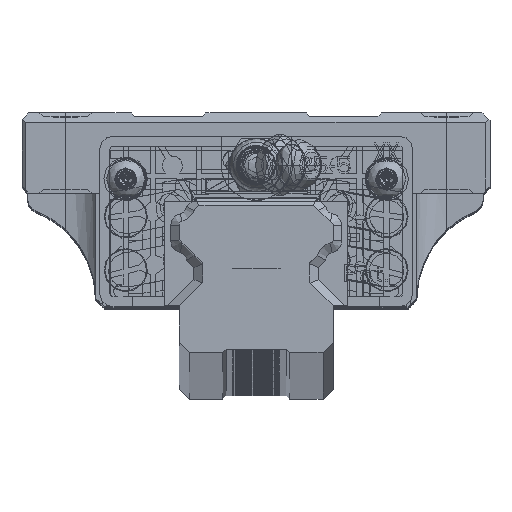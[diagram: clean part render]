
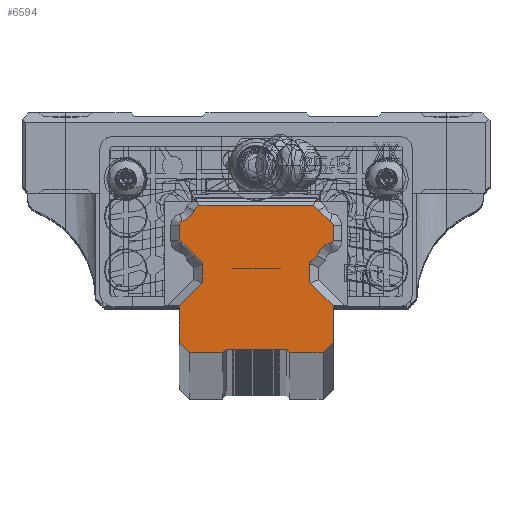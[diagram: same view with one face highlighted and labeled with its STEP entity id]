
A CAD part, top view. The second image highlights one B-rep face of the part: STEP entity #6594.
In plain terms, the highlighted planar face has unit normal (0, 0, 1).
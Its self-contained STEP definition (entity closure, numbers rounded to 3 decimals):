
#33=DIRECTION('',(0.707,0.707,0.));
#34=VECTOR('',#33,0.707);
#35=CARTESIAN_POINT('',(-5.,-18.,500.));
#36=LINE('',#35,#34);
#41=DIRECTION('',(1.,0.,0.));
#42=VECTOR('',#41,9.);
#43=CARTESIAN_POINT('',(-4.5,-17.5,500.));
#44=LINE('',#43,#42);
#719=DIRECTION('',(0.707,-0.707,0.));
#720=VECTOR('',#719,0.707);
#721=CARTESIAN_POINT('',(4.5,-17.5,500.));
#722=LINE('',#721,#720);
#771=DIRECTION('',(-0.707,0.707,0.));
#772=VECTOR('',#771,0.913);
#773=CARTESIAN_POINT('',(9.193,3.354,500.));
#774=LINE('',#773,#772);
#783=DIRECTION('',(-1.,0.,0.));
#784=VECTOR('',#783,17.094);
#785=CARTESIAN_POINT('',(8.547,4.,500.));
#786=LINE('',#785,#784);
#1457=DIRECTION('',(-0.707,-0.707,0.));
#1458=VECTOR('',#1457,0.913);
#1459=CARTESIAN_POINT('',(-8.547,4.,500.));
#1460=LINE('',#1459,#1458);
#1601=CARTESIAN_POINT('',(-9.171,-3.429,500.));
#1602=CARTESIAN_POINT('',(-9.256,-3.118,500.));
#1603=CARTESIAN_POINT('',(-9.523,-2.572,500.));
#1604=CARTESIAN_POINT('',(-10.214,-1.927,500.));
#1605=CARTESIAN_POINT('',(-10.776,-1.695,500.));
#1606=CARTESIAN_POINT('',(-11.1,-1.63,500.));
#1608=CARTESIAN_POINT('',(-11.1,-1.63,500.));
#1609=CARTESIAN_POINT('',(-11.178,-1.615,500.));
#1610=CARTESIAN_POINT('',(-11.321,-1.548,500.));
#1611=CARTESIAN_POINT('',(-11.463,-1.367,500.));
#1612=CARTESIAN_POINT('',(-11.5,-1.222,500.));
#1613=CARTESIAN_POINT('',(-11.5,-1.141,500.));
#1615=DIRECTION('',(0.,1.,0.));
#1616=VECTOR('',#1615,2.283);
#1617=CARTESIAN_POINT('',(-11.5,-1.141,500.));
#1618=LINE('',#1617,#1616);
#1619=CARTESIAN_POINT('',(-11.,1.141,500.));
#1620=DIRECTION('',(0.,0.,-1.));
#1621=DIRECTION('',(-1.,0.,0.));
#1622=AXIS2_PLACEMENT_3D('',#1619,#1620,#1621);
#1624=CARTESIAN_POINT('',(-11.584,4.084,500.));
#1625=DIRECTION('',(0.,0.,1.));
#1626=DIRECTION('',(0.195,-0.981,0.));
#1627=AXIS2_PLACEMENT_3D('',#1624,#1625,#1626);
#1629=CARTESIAN_POINT('',(9.193,3.354,500.));
#1630=CARTESIAN_POINT('',(9.286,3.05,500.));
#1631=CARTESIAN_POINT('',(9.566,2.52,500.));
#1632=CARTESIAN_POINT('',(10.247,1.909,500.));
#1633=CARTESIAN_POINT('',(10.788,1.697,500.));
#1634=CARTESIAN_POINT('',(11.079,1.637,500.));
#1636=CARTESIAN_POINT('',(11.079,1.637,500.));
#1637=CARTESIAN_POINT('',(11.168,1.622,500.));
#1638=CARTESIAN_POINT('',(11.304,1.559,500.));
#1639=CARTESIAN_POINT('',(11.463,1.374,500.));
#1640=CARTESIAN_POINT('',(11.5,1.225,500.));
#1641=CARTESIAN_POINT('',(11.5,1.141,500.));
#1643=DIRECTION('',(0.,-1.,0.));
#1644=VECTOR('',#1643,2.283);
#1645=CARTESIAN_POINT('',(11.5,1.141,500.));
#1646=LINE('',#1645,#1644);
#1647=CARTESIAN_POINT('',(11.,-1.141,500.));
#1648=DIRECTION('',(0.,0.,-1.));
#1649=DIRECTION('',(1.,0.,0.));
#1650=AXIS2_PLACEMENT_3D('',#1647,#1648,#1649);
#1652=CARTESIAN_POINT('',(11.584,-4.084,500.));
#1653=DIRECTION('',(0.,0.,1.));
#1654=DIRECTION('',(-0.195,0.981,0.));
#1655=AXIS2_PLACEMENT_3D('',#1652,#1653,#1654);
#1657=DIRECTION('',(-0.707,-0.707,0.));
#1658=VECTOR('',#1657,1.657);
#1659=CARTESIAN_POINT('',(9.171,-3.429,500.));
#1660=LINE('',#1659,#1658);
#1661=DIRECTION('',(0.,-1.,0.));
#1662=VECTOR('',#1661,2.9);
#1663=CARTESIAN_POINT('',(8.,-4.6,500.));
#1664=LINE('',#1663,#1662);
#1665=DIRECTION('',(0.707,-0.707,0.));
#1666=VECTOR('',#1665,4.95);
#1667=CARTESIAN_POINT('',(8.,-7.5,500.));
#1668=LINE('',#1667,#1666);
#1669=DIRECTION('',(0.,-1.,0.));
#1670=VECTOR('',#1669,5.5);
#1671=CARTESIAN_POINT('',(11.5,-11.,500.));
#1672=LINE('',#1671,#1670);
#1673=DIRECTION('',(-0.707,-0.707,0.));
#1674=VECTOR('',#1673,2.121);
#1675=CARTESIAN_POINT('',(11.5,-16.5,500.));
#1676=LINE('',#1675,#1674);
#1677=DIRECTION('',(-1.,0.,0.));
#1678=VECTOR('',#1677,5.);
#1679=CARTESIAN_POINT('',(10.,-18.,500.));
#1680=LINE('',#1679,#1678);
#1681=DIRECTION('',(-1.,0.,0.));
#1682=VECTOR('',#1681,5.);
#1683=CARTESIAN_POINT('',(-5.,-18.,500.));
#1684=LINE('',#1683,#1682);
#1685=DIRECTION('',(-0.707,0.707,0.));
#1686=VECTOR('',#1685,2.121);
#1687=CARTESIAN_POINT('',(-10.,-18.,500.));
#1688=LINE('',#1687,#1686);
#1689=DIRECTION('',(0.,1.,0.));
#1690=VECTOR('',#1689,5.5);
#1691=CARTESIAN_POINT('',(-11.5,-16.5,500.));
#1692=LINE('',#1691,#1690);
#1693=DIRECTION('',(0.707,0.707,0.));
#1694=VECTOR('',#1693,4.95);
#1695=CARTESIAN_POINT('',(-11.5,-11.,500.));
#1696=LINE('',#1695,#1694);
#1697=DIRECTION('',(0.,1.,0.));
#1698=VECTOR('',#1697,2.9);
#1699=CARTESIAN_POINT('',(-8.,-7.5,500.));
#1700=LINE('',#1699,#1698);
#1701=DIRECTION('',(-0.707,0.707,0.));
#1702=VECTOR('',#1701,1.657);
#1703=CARTESIAN_POINT('',(-8.,-4.6,500.));
#1704=LINE('',#1703,#1702);
#4117=CARTESIAN_POINT('',(-9.171,-3.429,500.));
#4119=VERTEX_POINT('',#4117);
#4123=CARTESIAN_POINT('',(-11.1,-1.63,500.));
#4124=VERTEX_POINT('',#4123);
#4126=CARTESIAN_POINT('',(-8.,-4.6,500.));
#4128=VERTEX_POINT('',#4126);
#4130=CARTESIAN_POINT('',(-8.,-7.5,500.));
#4132=VERTEX_POINT('',#4130);
#4134=CARTESIAN_POINT('',(-11.5,-11.,500.));
#4136=VERTEX_POINT('',#4134);
#4138=CARTESIAN_POINT('',(-11.5,-16.5,500.));
#4140=VERTEX_POINT('',#4138);
#4142=CARTESIAN_POINT('',(-10.,-18.,500.));
#4144=VERTEX_POINT('',#4142);
#4146=CARTESIAN_POINT('',(-5.,-18.,500.));
#4148=VERTEX_POINT('',#4146);
#4150=CARTESIAN_POINT('',(-4.5,-17.5,500.));
#4152=VERTEX_POINT('',#4150);
#4154=CARTESIAN_POINT('',(4.5,-17.5,500.));
#4156=VERTEX_POINT('',#4154);
#4437=CARTESIAN_POINT('',(-8.547,4.,500.));
#4439=VERTEX_POINT('',#4437);
#4443=CARTESIAN_POINT('',(8.547,4.,500.));
#4444=VERTEX_POINT('',#4443);
#4838=CARTESIAN_POINT('',(-9.193,3.354,500.));
#4840=VERTEX_POINT('',#4838);
#4842=CARTESIAN_POINT('',(-11.097,1.632,500.));
#4844=VERTEX_POINT('',#4842);
#4845=CARTESIAN_POINT('',(-11.5,1.141,500.));
#4847=VERTEX_POINT('',#4845);
#4850=CARTESIAN_POINT('',(-11.5,-1.141,500.));
#4852=VERTEX_POINT('',#4850);
#4875=CARTESIAN_POINT('',(5.,-18.,500.));
#4876=VERTEX_POINT('',#4875);
#4877=CARTESIAN_POINT('',(10.,-18.,500.));
#4878=VERTEX_POINT('',#4877);
#4879=CARTESIAN_POINT('',(11.5,-16.5,500.));
#4880=VERTEX_POINT('',#4879);
#4881=CARTESIAN_POINT('',(11.5,-11.,500.));
#4882=VERTEX_POINT('',#4881);
#4883=CARTESIAN_POINT('',(8.,-7.5,500.));
#4884=VERTEX_POINT('',#4883);
#4885=CARTESIAN_POINT('',(8.,-4.6,500.));
#4886=VERTEX_POINT('',#4885);
#4887=CARTESIAN_POINT('',(9.171,-3.429,500.));
#4888=VERTEX_POINT('',#4887);
#4889=CARTESIAN_POINT('',(11.097,-1.632,500.));
#4890=VERTEX_POINT('',#4889);
#4891=CARTESIAN_POINT('',(11.5,-1.141,500.));
#4892=VERTEX_POINT('',#4891);
#4893=CARTESIAN_POINT('',(11.5,1.141,500.));
#4894=VERTEX_POINT('',#4893);
#4895=CARTESIAN_POINT('',(11.079,1.637,500.));
#4896=VERTEX_POINT('',#4895);
#4897=CARTESIAN_POINT('',(9.193,3.354,500.));
#4898=VERTEX_POINT('',#4897);
#6559=CARTESIAN_POINT('',(0.,0.,500.));
#6560=DIRECTION('',(0.,0.,1.));
#6561=DIRECTION('',(1.,0.,0.));
#6562=AXIS2_PLACEMENT_3D('',#6559,#6560,#6561);
#6563=PLANE('',#6562);
#6564=ORIENTED_EDGE('',*,*,#5310,.T.);
#6565=ORIENTED_EDGE('',*,*,#6518,.T.);
#6566=ORIENTED_EDGE('',*,*,#6504,.T.);
#6567=ORIENTED_EDGE('',*,*,#6489,.T.);
#6568=ORIENTED_EDGE('',*,*,#6474,.T.);
#6569=ORIENTED_EDGE('',*,*,#6459,.F.);
#6570=ORIENTED_EDGE('',*,*,#6042,.F.);
#6571=ORIENTED_EDGE('',*,*,#6027,.F.);
#6572=ORIENTED_EDGE('',*,*,#6012,.T.);
#6573=ORIENTED_EDGE('',*,*,#5997,.T.);
#6574=ORIENTED_EDGE('',*,*,#5982,.T.);
#6575=ORIENTED_EDGE('',*,*,#5967,.T.);
#6576=ORIENTED_EDGE('',*,*,#5952,.T.);
#6577=ORIENTED_EDGE('',*,*,#5937,.T.);
#6578=ORIENTED_EDGE('',*,*,#5922,.T.);
#6579=ORIENTED_EDGE('',*,*,#5907,.T.);
#6580=ORIENTED_EDGE('',*,*,#5892,.T.);
#6581=ORIENTED_EDGE('',*,*,#5877,.T.);
#6582=ORIENTED_EDGE('',*,*,#5862,.T.);
#6583=ORIENTED_EDGE('',*,*,#5847,.F.);
#6584=ORIENTED_EDGE('',*,*,#5430,.F.);
#6585=ORIENTED_EDGE('',*,*,#5415,.F.);
#6586=ORIENTED_EDGE('',*,*,#5400,.T.);
#6587=ORIENTED_EDGE('',*,*,#5385,.T.);
#6588=ORIENTED_EDGE('',*,*,#5370,.T.);
#6589=ORIENTED_EDGE('',*,*,#5355,.T.);
#6590=ORIENTED_EDGE('',*,*,#5340,.T.);
#6591=ORIENTED_EDGE('',*,*,#5325,.T.);
#6592=EDGE_LOOP('',(#6564,#6565,#6566,#6567,#6568,#6569,#6570,#6571,#6572,#6573,
#6574,#6575,#6576,#6577,#6578,#6579,#6580,#6581,#6582,#6583,#6584,#6585,#6586,
#6587,#6588,#6589,#6590,#6591));
#6593=FACE_OUTER_BOUND('',#6592,.F.);
#6594=ADVANCED_FACE('',(#6593),#6563,.T.);
#1607=B_SPLINE_CURVE_WITH_KNOTS('',3,(#1601,#1602,#1603,#1604,#1605,#1606),
.UNSPECIFIED.,.F.,.F.,(4,1,1,4),(0.,0.333,0.667,1.),
.UNSPECIFIED.);
#1614=B_SPLINE_CURVE_WITH_KNOTS('',3,(#1608,#1609,#1610,#1611,#1612,#1613),
.UNSPECIFIED.,.F.,.F.,(4,1,1,4),(0.,0.333,0.667,1.),
.UNSPECIFIED.);
#1623=CIRCLE('',#1622,0.5);
#1628=CIRCLE('',#1627,2.5);
#1635=B_SPLINE_CURVE_WITH_KNOTS('',3,(#1629,#1630,#1631,#1632,#1633,#1634),
.UNSPECIFIED.,.F.,.F.,(4,1,1,4),(0.,0.333,0.667,1.),
.UNSPECIFIED.);
#1642=B_SPLINE_CURVE_WITH_KNOTS('',3,(#1636,#1637,#1638,#1639,#1640,#1641),
.UNSPECIFIED.,.F.,.F.,(4,1,1,4),(0.,0.333,0.667,1.),
.UNSPECIFIED.);
#1651=CIRCLE('',#1650,0.5);
#1656=CIRCLE('',#1655,2.5);
#5310=EDGE_CURVE('',#4119,#4124,#1607,.T.);
#5325=EDGE_CURVE('',#4128,#4119,#1704,.T.);
#5340=EDGE_CURVE('',#4132,#4128,#1700,.T.);
#5355=EDGE_CURVE('',#4136,#4132,#1696,.T.);
#5370=EDGE_CURVE('',#4140,#4136,#1692,.T.);
#5385=EDGE_CURVE('',#4144,#4140,#1688,.T.);
#5400=EDGE_CURVE('',#4148,#4144,#1684,.T.);
#5415=EDGE_CURVE('',#4148,#4152,#36,.T.);
#5430=EDGE_CURVE('',#4152,#4156,#44,.T.);
#5847=EDGE_CURVE('',#4156,#4876,#722,.T.);
#5862=EDGE_CURVE('',#4878,#4876,#1680,.T.);
#5877=EDGE_CURVE('',#4880,#4878,#1676,.T.);
#5892=EDGE_CURVE('',#4882,#4880,#1672,.T.);
#5907=EDGE_CURVE('',#4884,#4882,#1668,.T.);
#5922=EDGE_CURVE('',#4886,#4884,#1664,.T.);
#5937=EDGE_CURVE('',#4888,#4886,#1660,.T.);
#5952=EDGE_CURVE('',#4890,#4888,#1656,.T.);
#5967=EDGE_CURVE('',#4892,#4890,#1651,.T.);
#5982=EDGE_CURVE('',#4894,#4892,#1646,.T.);
#5997=EDGE_CURVE('',#4896,#4894,#1642,.T.);
#6012=EDGE_CURVE('',#4898,#4896,#1635,.T.);
#6027=EDGE_CURVE('',#4898,#4444,#774,.T.);
#6042=EDGE_CURVE('',#4444,#4439,#786,.T.);
#6459=EDGE_CURVE('',#4439,#4840,#1460,.T.);
#6474=EDGE_CURVE('',#4844,#4840,#1628,.T.);
#6489=EDGE_CURVE('',#4847,#4844,#1623,.T.);
#6504=EDGE_CURVE('',#4852,#4847,#1618,.T.);
#6518=EDGE_CURVE('',#4124,#4852,#1614,.T.);
